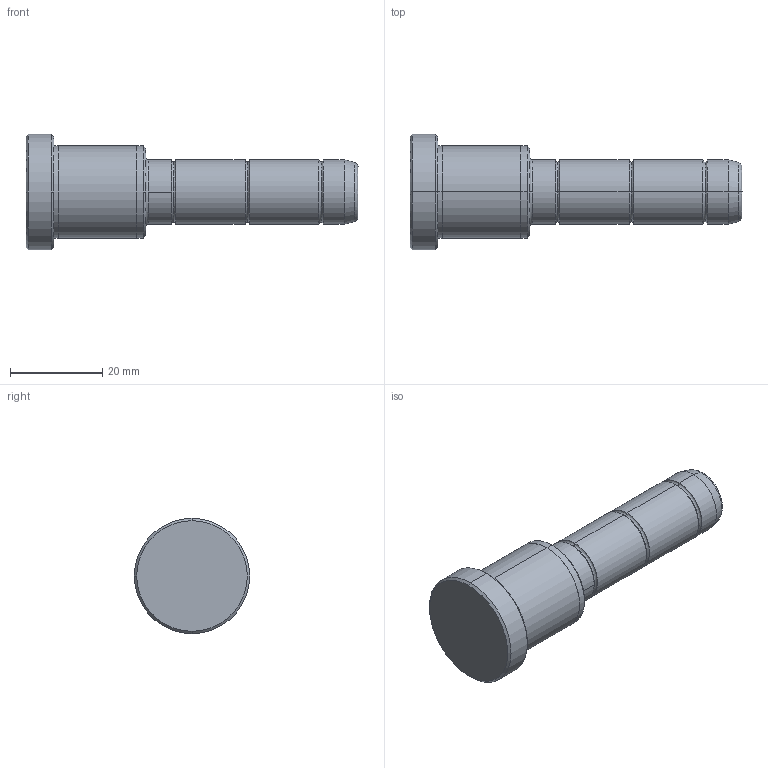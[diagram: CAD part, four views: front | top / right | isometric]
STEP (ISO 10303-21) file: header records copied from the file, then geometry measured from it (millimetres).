
FILE_DESCRIPTION (( 'STEP AP214' ), '1' );
FILE_NAME ('D02_14x26x46.step', '2011-12-25T21:17:32', ( 'Dell' ), ( '' ), 'SwSTEP 2.0', 'SolidWorks 2010', '' );
FILE_SCHEMA (( 'AUTOMOTIVE_DESIGN' ));
Length unit declared in the file: millimetre
Products named in the file (1): D02_14x26x46
Bounding box: 72 x 25 x 25 mm (x, y, z)
Volume: 16190.3 mm3; surface area: 4680.7 mm2
Topology: 1 solids, 1 shells, 48 faces, 102 edges, 60 vertices
Faces by surface type: cylinder 16, bspline 16, cone 10, plane 6
Entity records: 1498 total; most frequent: CARTESIAN_POINT 513, ORIENTED_EDGE 204, DIRECTION 202, EDGE_CURVE 102, AXIS2_PLACEMENT_3D 89, VERTEX_POINT 60, CIRCLE 56, EDGE_LOOP 52
